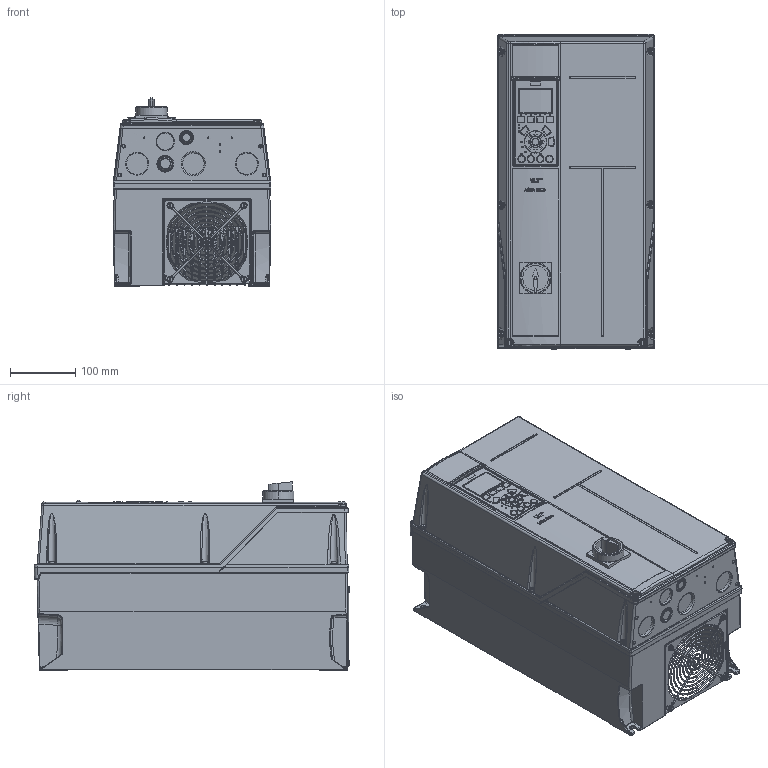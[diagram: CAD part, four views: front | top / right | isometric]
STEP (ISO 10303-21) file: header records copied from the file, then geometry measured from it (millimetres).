
FILE_DESCRIPTION((''),'2;1');
FILE_NAME('DANFOSS-FC200-B1-SWITCH','2011-10-27T',('cstephenkumar'),('Be-Atch INC. 1993'),'PRO/ENGINEER BY PARAMETRIC TECHNOLOGY CORPORATION, 2009360','PRO/ENGINEER BY PARAMETRIC TECHNOLOGY CORPORATION, 2009360','');
FILE_SCHEMA(('AUTOMOTIVE_DESIGN { 1 0 10303 214 1 1 1 1 }'));
Products named in the file (1): DANFOSS-FC200-B1-SWITCH
Bounding box: 242 x 483.31 x 288.81 mm (x, y, z)
Volume: 20470172.8 mm3; surface area: 1851595 mm2
Topology: 1 solids, 16 shells, 4588 faces, 11587 edges, 7020 vertices
Faces by surface type: cylinder 1538, plane 1375, bspline 1066, torus 321, cone 212, sphere 54, extrusion 22
Entity records: 198008 total; most frequent: CARTESIAN_POINT 96427, ORIENTED_EDGE 23024, DIRECTION 17481, EDGE_CURVE 11512, VERTEX_POINT 7020, AXIS2_PLACEMENT_3D 6275, VECTOR 4931, LINE 4909
